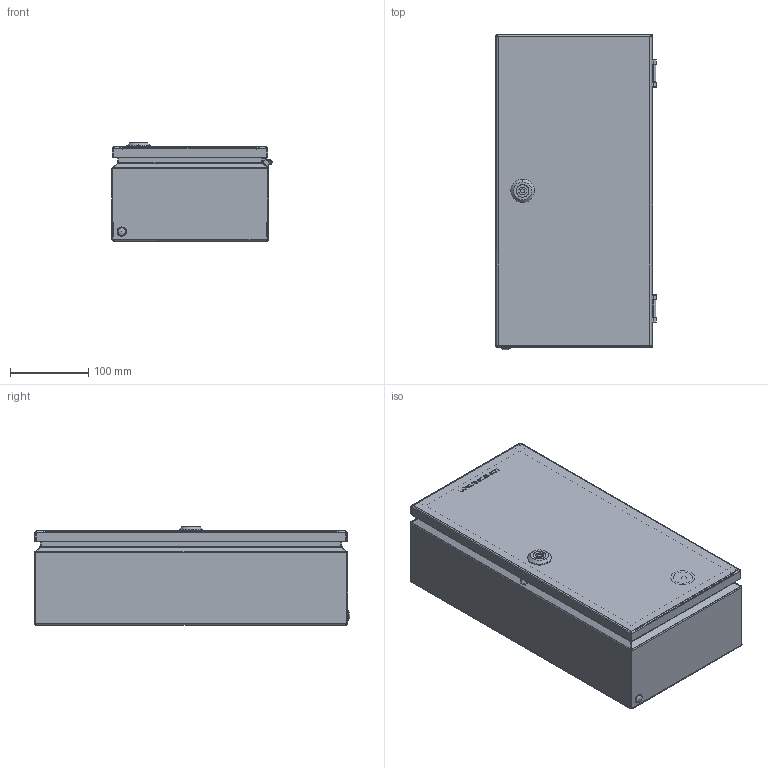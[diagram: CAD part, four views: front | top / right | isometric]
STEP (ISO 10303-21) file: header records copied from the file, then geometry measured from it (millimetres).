
FILE_DESCRIPTION (( 'STEP AP214' ), '1' );
FILE_NAME ('CCS 40.20.12-J Ñèãíàëüíûé øêàô÷èê.STEP', '2023-04-06T09:00:41', ( '' ), ( '' ), 'SwSTEP 2.0', 'SolidWorks 2019', '' );
FILE_SCHEMA (( 'AUTOMOTIVE_DESIGN' ));
Length unit declared in the file: millimetre
Products named in the file (1): CCS 40.20.12-J Ñèãíàëüíûé øêàô÷èê
Bounding box: 204.51 x 402.5 x 125.19 mm (x, y, z)
Volume: 626744.9 mm3; surface area: 884904.1 mm2
Topology: 24 solids, 24 shells, 2185 faces, 5862 edges, 3721 vertices
Faces by surface type: plane 874, cylinder 605, bspline 576, cone 94, torus 35, sphere 1
Entity records: 125749 total; most frequent: CARTESIAN_POINT 50883, ORIENTED_EDGE 11614, DIRECTION 8732, EDGE_CURVE 5807, VERTEX_POINT 3719, VECTOR 3066, LINE 3066, AXIS2_PLACEMENT_3D 2833
